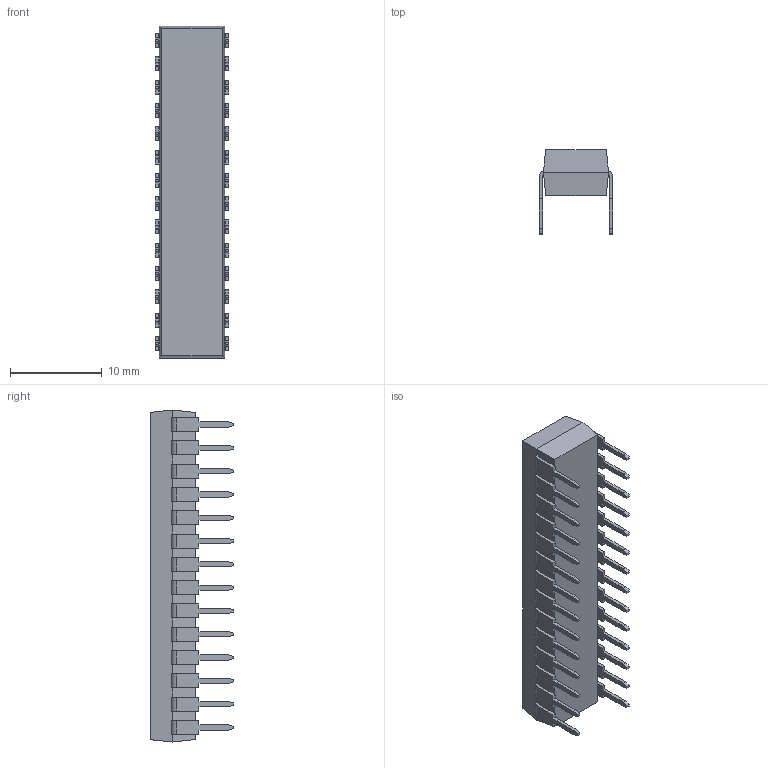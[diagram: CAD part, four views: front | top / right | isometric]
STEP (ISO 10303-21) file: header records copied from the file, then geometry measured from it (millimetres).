
FILE_DESCRIPTION (( 'STEP AP214' ), '1' );
FILE_NAME ('DIP28 (MS-001.AG).STEP', '2012-10-16T13:01:29', ( 'Tester2' ), ( '' ), 'SwSTEP 2.0', 'SolidWorks 2012', '' );
FILE_SCHEMA (( 'AUTOMOTIVE_DESIGN' ));
Length unit declared in the file: millimetre
Products named in the file (1): DIP28 (MS-001.AG)
Bounding box: 7.98 x 9.14 x 36.2 mm (x, y, z)
Volume: 1283.1 mm3; surface area: 1393.8 mm2
Topology: 1 solids, 1 shells, 379 faces, 1127 edges, 750 vertices
Faces by surface type: plane 321, cylinder 58
Entity records: 12744 total; most frequent: CARTESIAN_POINT 2257, ORIENTED_EDGE 2254, DIRECTION 2003, EDGE_CURVE 1127, LINE 1011, VECTOR 1011, VERTEX_POINT 750, AXIS2_PLACEMENT_3D 496
